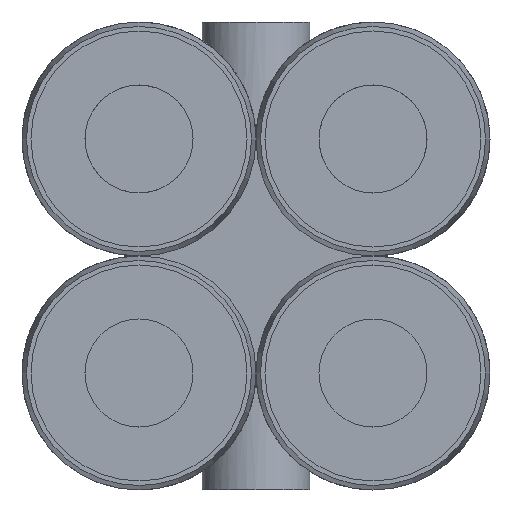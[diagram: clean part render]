
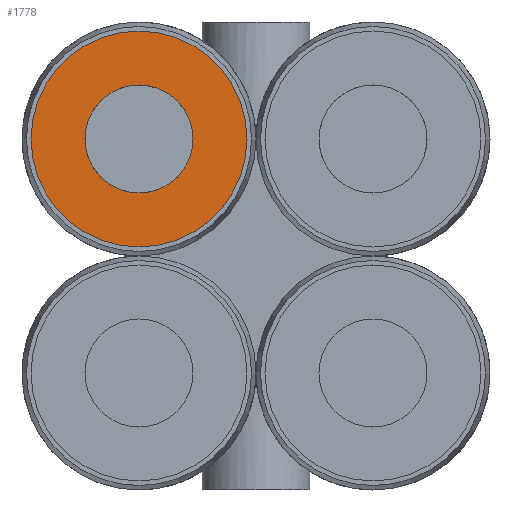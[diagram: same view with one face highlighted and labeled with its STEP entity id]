
A CAD part, front view. The second image highlights one B-rep face of the part: STEP entity #1778.
In plain terms, the highlighted planar face has unit normal (0, -1, 0).
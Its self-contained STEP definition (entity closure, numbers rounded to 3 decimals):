
#95=FACE_BOUND('',#311,.T.);
#127=PLANE('',#1992);
#202=FACE_OUTER_BOUND('',#310,.T.);
#310=EDGE_LOOP('',(#1460,#1461));
#311=EDGE_LOOP('',(#1462,#1463));
#625=CIRCLE('',#1951,3.);
#628=CIRCLE('',#1954,3.);
#647=CIRCLE('',#1990,6.);
#648=CIRCLE('',#1991,6.);
#811=VERTEX_POINT('',#3244);
#812=VERTEX_POINT('',#3245);
#836=VERTEX_POINT('',#3326);
#837=VERTEX_POINT('',#3327);
#1038=EDGE_CURVE('',#811,#812,#625,.T.);
#1042=EDGE_CURVE('',#812,#811,#628,.T.);
#1078=EDGE_CURVE('',#836,#837,#647,.T.);
#1079=EDGE_CURVE('',#837,#836,#648,.T.);
#1460=ORIENTED_EDGE('',*,*,#1078,.T.);
#1461=ORIENTED_EDGE('',*,*,#1079,.T.);
#1462=ORIENTED_EDGE('',*,*,#1038,.F.);
#1463=ORIENTED_EDGE('',*,*,#1042,.F.);
#1778=ADVANCED_FACE('',(#202,#95),#127,.T.);
#1951=AXIS2_PLACEMENT_3D('',#3246,#2350,#2351);
#1954=AXIS2_PLACEMENT_3D('',#3252,#2357,#2358);
#1990=AXIS2_PLACEMENT_3D('',#3328,#2446,#2447);
#1991=AXIS2_PLACEMENT_3D('',#3329,#2448,#2449);
#1992=AXIS2_PLACEMENT_3D('',#3331,#2451,#2452);
#2350=DIRECTION('center_axis',(0.,-1.,0.));
#2351=DIRECTION('ref_axis',(0.,0.,
1.));
#2357=DIRECTION('center_axis',(0.,-1.,0.));
#2358=DIRECTION('ref_axis',(0.,0.,
1.));
#2446=DIRECTION('center_axis',(0.,-1.,0.));
#2447=DIRECTION('ref_axis',(0.,0.,
1.));
#2448=DIRECTION('center_axis',(0.,-1.,0.));
#2449=DIRECTION('ref_axis',(0.,0.,
1.));
#2451=DIRECTION('center_axis',(0.,-1.,0.));
#2452=DIRECTION('ref_axis',(1.,0.,0.));
#3244=CARTESIAN_POINT('',(-6.5,-12.5,9.5));
#3245=CARTESIAN_POINT('',(-6.5,-12.5,3.5));
#3246=CARTESIAN_POINT('Origin',(-6.5,-12.5,6.5));
#3252=CARTESIAN_POINT('Origin',(-6.5,-12.5,6.5));
#3326=CARTESIAN_POINT('',(-6.5,-12.5,12.5));
#3327=CARTESIAN_POINT('',(-6.5,-12.5,0.5));
#3328=CARTESIAN_POINT('Origin',(-6.5,-12.5,6.5));
#3329=CARTESIAN_POINT('Origin',(-6.5,-12.5,6.5));
#3331=CARTESIAN_POINT('Origin',(-6.5,-12.5,9.5));
